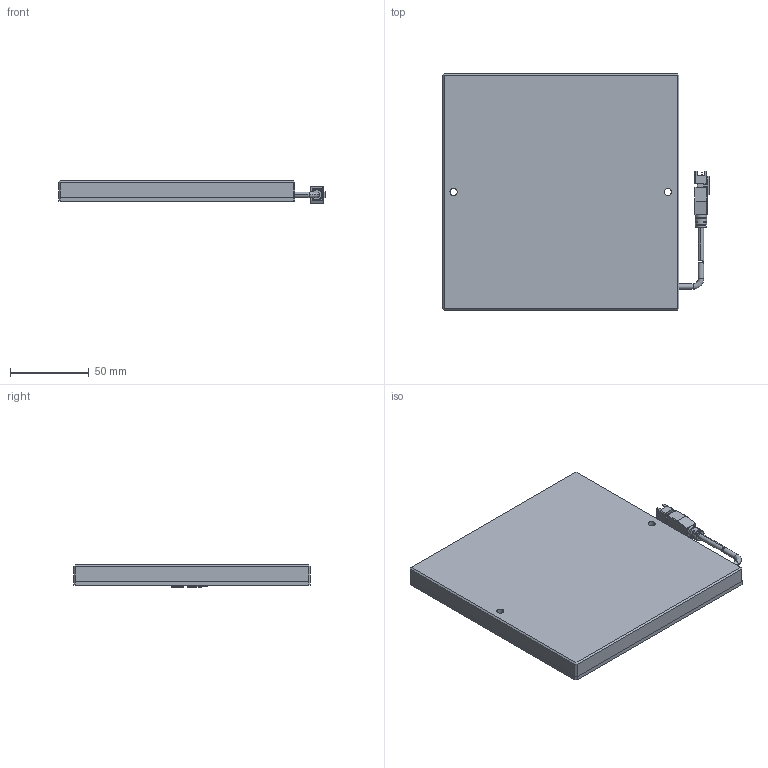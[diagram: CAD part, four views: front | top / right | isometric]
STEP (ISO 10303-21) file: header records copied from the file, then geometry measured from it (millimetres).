
FILE_DESCRIPTION (( 'STEP AP203' ), '1' );
FILE_NAME ('CRT-FLC110110-¼òÒ×3DÍ¼.STEP', '2021-12-10T02:32:00', ( 'Admin' ), ( '' ), 'SwSTEP 2.0', 'SolidWorks 2018', '' );
FILE_SCHEMA (( 'CONFIG_CONTROL_DESIGN' ));
Length unit declared in the file: millimetre
Products named in the file (1): CRT-FLC110110-潠眢3D芞
Bounding box: 169.45 x 150 x 14.1 mm (x, y, z)
Surface area: 69796.7 mm2 (no closed solid volume)
Topology: 0 solids, 5 shells, 224 faces, 667 edges, 430 vertices
Faces by surface type: plane 138, cylinder 69, bspline 12, cone 3, torus 2
Entity records: 7962 total; most frequent: CARTESIAN_POINT 2021, DIRECTION 1203, ORIENTED_EDGE 1161, EDGE_CURVE 663, LINE 445, VECTOR 445, VERTEX_POINT 430, AXIS2_PLACEMENT_3D 379
